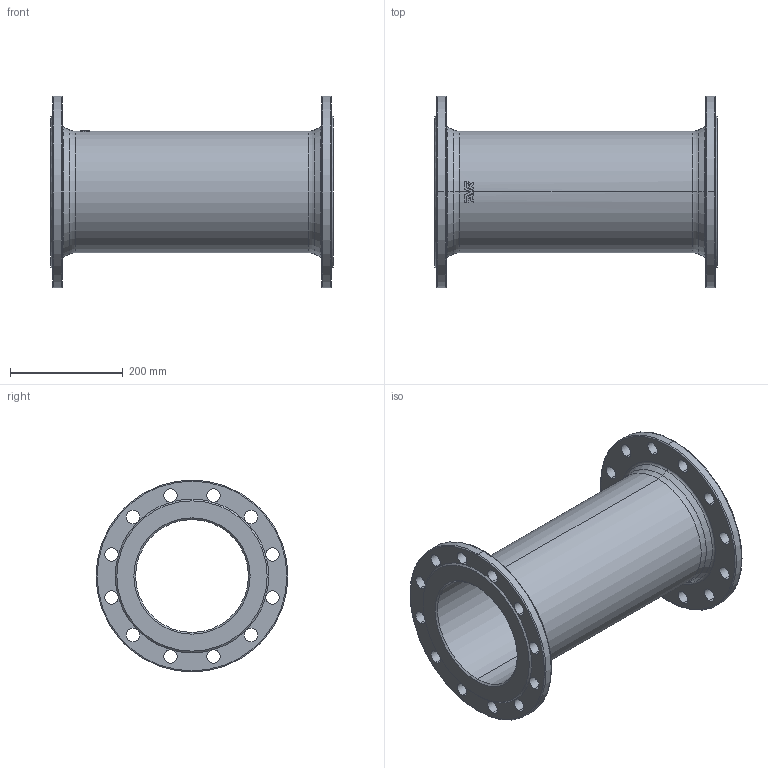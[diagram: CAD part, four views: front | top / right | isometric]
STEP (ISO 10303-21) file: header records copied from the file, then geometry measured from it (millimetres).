
FILE_DESCRIPTION (( 'STEP AP203' ), '1' );
FILE_NAME ('O_712_4810_DN200_1X_REV01.step', '2021-12-01T10:38:03', ( '' ), ( '' ), 'SwSTEP 2.0', 'SolidWorks 2019', '' );
FILE_SCHEMA (( 'CONFIG_CONTROL_DESIGN' ));
Length unit declared in the file: millimetre
Products named in the file (1): O_712_4810_DN200_1X_REV01
Bounding box: 500 x 340 x 340 mm (x, y, z)
Volume: 4339909.6 mm3; surface area: 885070.6 mm2
Topology: 1 solids, 1 shells, 132 faces, 417 edges, 270 vertices
Faces by surface type: cylinder 61, plane 24, bspline 19, torus 16, cone 12
Entity records: 5988 total; most frequent: CARTESIAN_POINT 2273, ORIENTED_EDGE 834, DIRECTION 716, EDGE_CURVE 417, AXIS2_PLACEMENT_3D 314, VERTEX_POINT 270, CIRCLE 200, EDGE_LOOP 165
